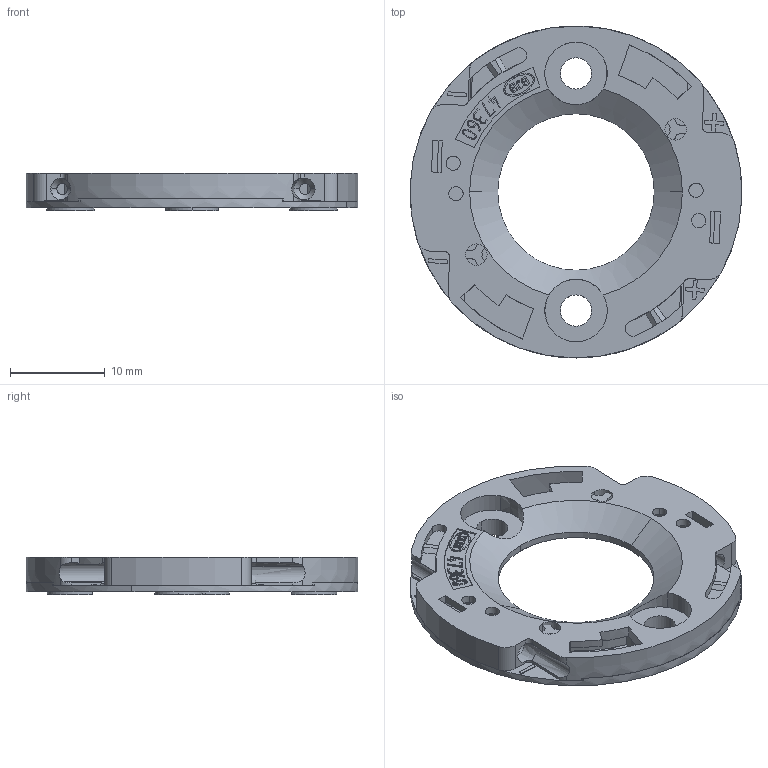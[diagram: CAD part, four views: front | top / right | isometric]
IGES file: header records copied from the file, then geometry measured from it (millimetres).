
Global section: file name: C:\CoreTechnologie\3D-in/01ZYR0GY04.igs; native system: CT CoreTechnologie 3D Evolution; preprocessor: 2006; date: 1190207.095131; units: millimetre
Bounding box: 34.99 x 35 x 3.95 mm (x, y, z)
Volume: 1630.4 mm3; surface area: 3965.9 mm2
Topology: 4 solids, 4 shells, 543 faces, 1561 edges, 1052 vertices
Faces by surface type: plane 349, revolution 168, bspline 26
